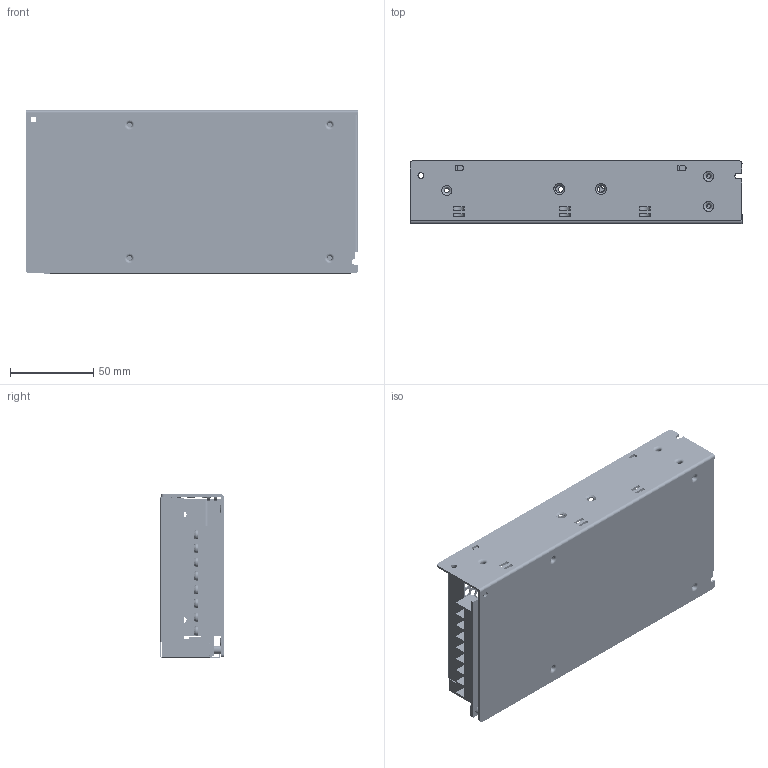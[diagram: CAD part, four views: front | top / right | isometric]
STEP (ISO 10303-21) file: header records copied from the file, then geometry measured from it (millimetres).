
FILE_DESCRIPTION((''),'2;1');
FILE_NAME('C:\Users\shirley\Desktop\RQ-125.stp','2019-06-06T10:08:05',('shirley'),(''),'Autodesk Inventor 2010','Autodesk Inventor 2010','');
FILE_SCHEMA(('AUTOMOTIVE_DESIGN { 1 0 10303 214 1 1 1 1 }'));
Length unit declared in the file: millimetre
Products named in the file (6): RQ-125; RS-150-CASE-D; CUUU; RS-150-PCB; RS-150-CASE-T; TN1
Assembly tree (5 placements, depth 2):
  RQ-125
    RS-150-CASE-D
    CUUU
    RS-150-PCB
    RS-150-CASE-T
    TN1
Bounding box: 199.02 x 38 x 98 mm (x, y, z)
Volume: 90313.4 mm3; surface area: 143058.9 mm2
Topology: 5 solids, 5 shells, 1437 faces, 4193 edges, 2746 vertices
Faces by surface type: cylinder 912, plane 426, bspline 76, torus 14, cone 9
Full cylindrical faces by diameter (mm): 2.6 x4, 2.8 x4, 3.5 x5, 4 x1, 4.5 x682, 5 x2, 5.6 x8
Entity records: 50592 total; most frequent: CARTESIAN_POINT 11433, DIRECTION 7721, ORIENTED_EDGE 6788, EDGE_LOOP 3602, EDGE_CURVE 3394, AXIS2_PLACEMENT_3D 3153, VERTEX_POINT 2642, FACE_BOUND 2165
